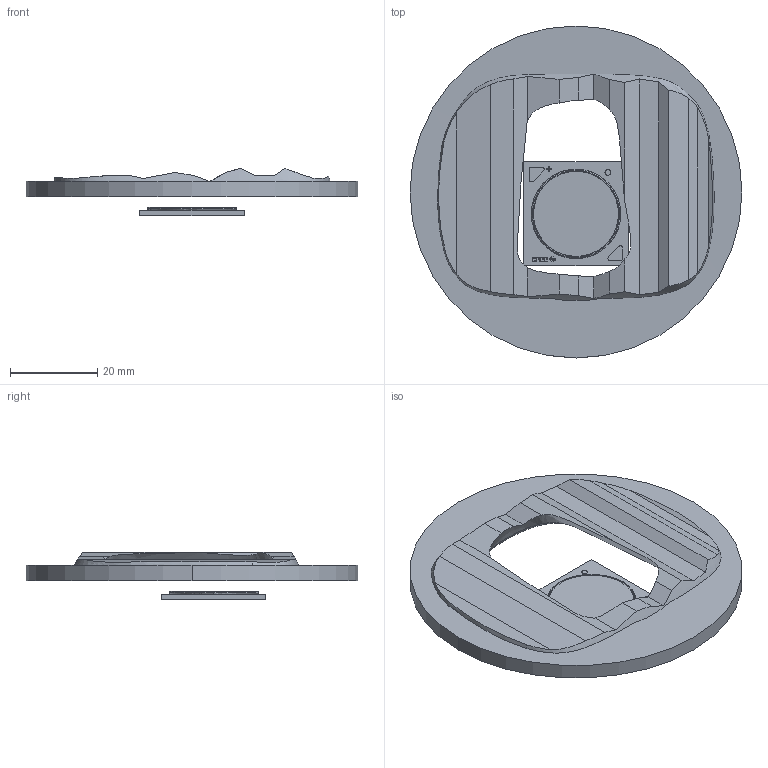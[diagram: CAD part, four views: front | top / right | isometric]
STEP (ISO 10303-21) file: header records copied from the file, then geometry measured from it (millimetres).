
FILE_DESCRIPTION(('STEP AP203'),'1');
FILE_NAME('D:/TracePro/_cocky EcoGlass/A5697624 street/A5697624 a Cree CXA2530.stp','2014-06-24T07:49:41',(' '),(' '),'Spatial InterOp 3D',' ',' ');
FILE_SCHEMA(('CONFIG_CONTROL_DESIGN'));
Length unit declared in the file: millimetre
Products named in the file (2): 1; 2
Bounding box: 76 x 76 x 10.78 mm (x, y, z)
Volume: 15339.8 mm3; surface area: 10050 mm2
Topology: 2 solids, 2 shells, 269 faces, 763 edges, 506 vertices
Faces by surface type: plane 204, cylinder 50, torus 10, bspline 5
Entity records: 33263 total; most frequent: CARTESIAN_POINT 26136, ORIENTED_EDGE 1526, DIRECTION 1399, EDGE_CURVE 763, LINE 541, VECTOR 541, VERTEX_POINT 506, AXIS2_PLACEMENT_3D 429
